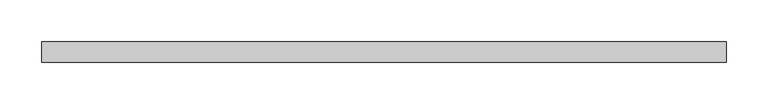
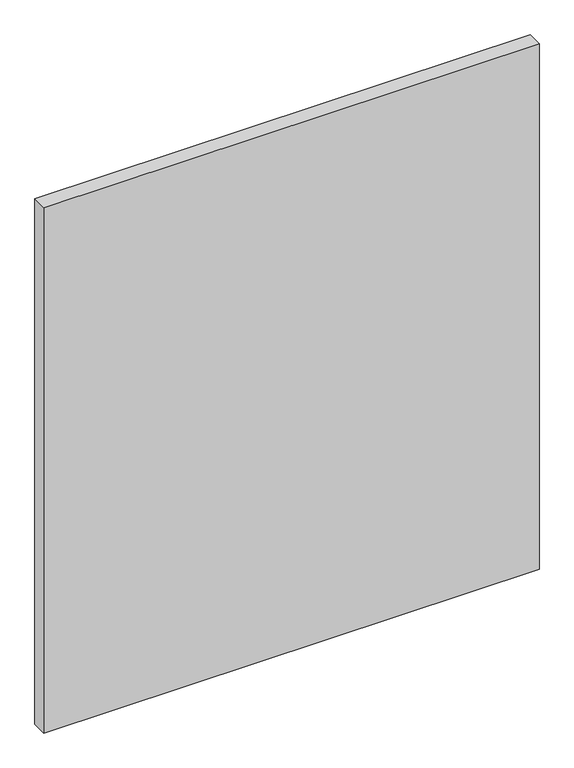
"""IFC4 building model written with IfcOpenShell, lengths in millimetres: plate geometry, 系统嵌板 : 玻璃."""

from ifc_helpers import new_model, si_unit, origin, origin_with_axes, place, context, project, spatial, polyline, outline, extrude, source, transform, mapped, element, save


def plate_dccf6ea0(model_context):
    return source(origin(), model_context, "Body", "SweptSolid", [
        extrude(outline(polyline([(412.5, -12.5), (-412.5, -12.5), (-412.5, 12.5), (412.5, 12.5), (412.5, -12.5)])), origin_with_axes(), (0.0, 0.0, 1.0), 925.0),
    ])


if __name__ == "__main__":
    model = new_model("IFC4")
    model_context = context("Model", 3, world=origin())
    ifc_project = project(units=[si_unit("LENGTHUNIT", "METRE", prefix="MILLI")], contexts=[model_context])
    site = spatial("IfcSite", under=ifc_project)
    building = spatial("IfcBuilding", under=site)
    placement = place(None, origin())
    plate_shape = plate_dccf6ea0(model_context)
    element("IfcPlate", 1, ObjectType="系统嵌板 : 玻璃", at=placement, inside=building, context=model_context, shape_type="MappedRepresentation", body=[
        mapped(plate_shape, transform((0.0, 0.0, 0.0), x_axis=(1.0, 0.0, 0.0), y_axis=(0.0, 1.0, 0.0), z_axis=(0.0, 0.0, 1.0))),
    ])
    save(model, "model.ifc")
